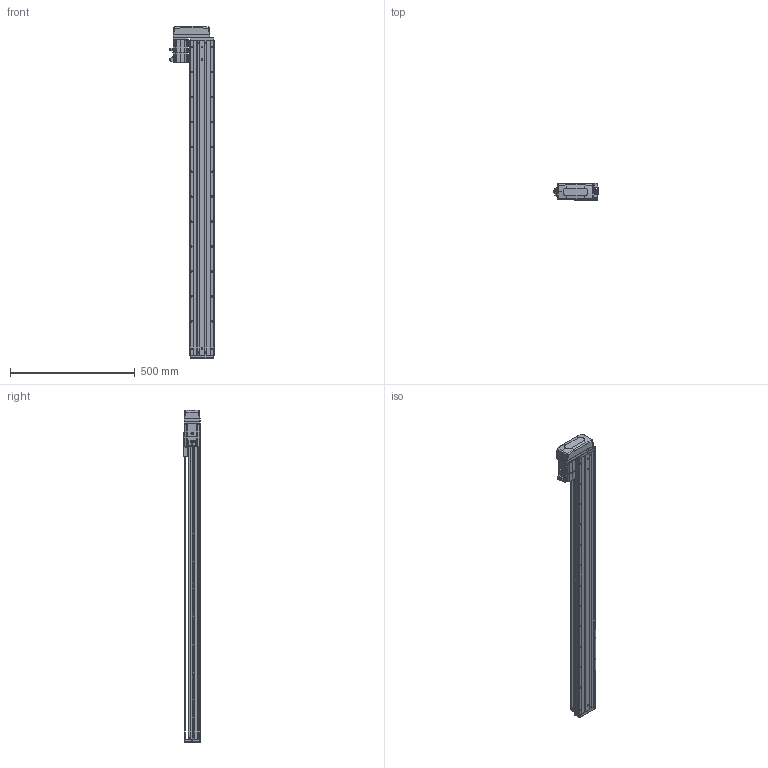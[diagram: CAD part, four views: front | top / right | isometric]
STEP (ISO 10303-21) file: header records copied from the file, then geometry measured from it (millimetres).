
FILE_DESCRIPTION (( 'STEP AP203' ), '1' );
FILE_NAME ('KTHA100-1100-BR-M20-C4L.step', '2022-04-26T01:58:39', ( '微软用户' ), ( '微软中国' ), 'SwSTEP 2.0', 'SolidWorks 2020', '' );
FILE_SCHEMA (( 'CONFIG_CONTROL_DESIGN' ));
Length unit declared in the file: millimetre
Products named in the file (17): CTHA86-015-1_CTHA86-015-2; KTHA100-002; GBT77-2000 M3×3; CTHA86-033; KTHA100-004; GBT 70.1-M3℅6; KTHA100-1100-BR-M20-C4L; KTHA100-005; GBT70.1 M5℅16; GB¨uT 70.2-M3¡Á5_M3¡Á6; CTHA60-016; EE_SX911P_R; GBT 70.3-M3℅6; CTHA60-017; _X2_4E0983F1_X0_200W_1; KTHA100-001_1260; CTHA60-021
Assembly tree (57 placements, depth 2):
  KTHA100-1100-BR-M20-C4L
    KTHA100-001_1260
    KTHA100-002
    KTHA100-004
    KTHA100-005
    GB¨uT 70.2-M3¡Á5_M3¡Á6  x6
    EE_SX911P_R  x3
    CTHA60-017  x3
    CTHA60-021  x2
    GBT77-2000 M3×3  x6
    GBT 70.1-M3℅6  x10
    GBT70.1 M5℅16  x14
    CTHA60-016  x2
    GBT 70.3-M3℅6  x4
    _X2_4E0983F1_X0_200W_1
    CTHA86-015-1_CTHA86-015-2
    CTHA86-033
Bounding box: 178.52 x 68 x 1331 mm (x, y, z)
Volume: 5474617.8 mm3; surface area: 883129.2 mm2
Topology: 60 solids, 60 shells, 2537 faces, 6113 edges, 3796 vertices
Faces by surface type: plane 1304, cylinder 707, cone 319, torus 116, bspline 75, sphere 16
Entity records: 45178 total; most frequent: CARTESIAN_POINT 9008, DIRECTION 7042, ORIENTED_EDGE 6838, EDGE_CURVE 3419, AXIS2_PLACEMENT_3D 2438, LINE 2166, VECTOR 2166, VERTEX_POINT 2156
